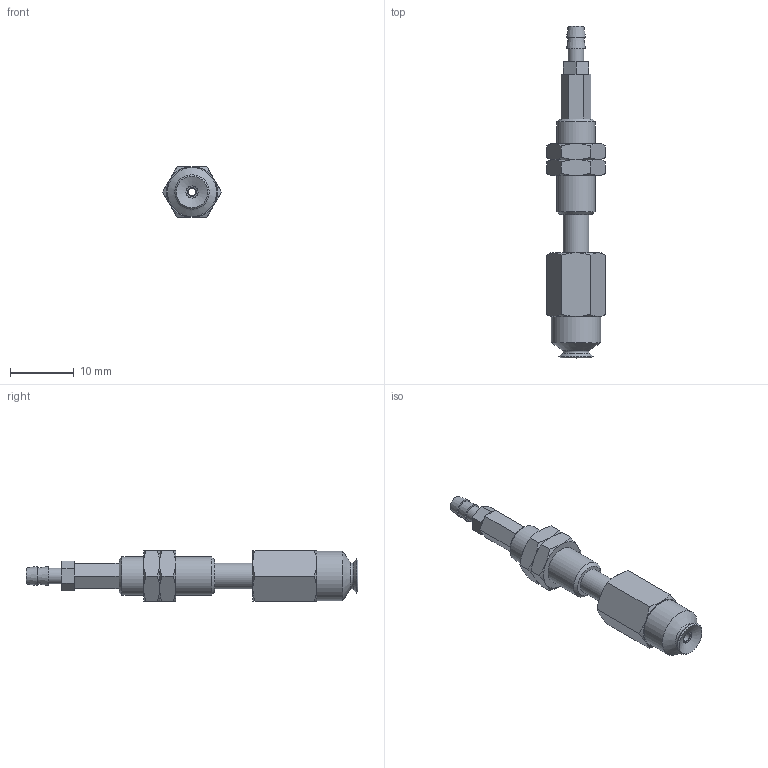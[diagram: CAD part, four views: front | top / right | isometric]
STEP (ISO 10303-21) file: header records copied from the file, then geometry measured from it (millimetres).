
FILE_DESCRIPTION(('STEP AP203'),'1');
FILE_NAME('-T.stp','2025-08-27T05:33:50',(' '),(' '),'Spatial InterOp 3D',' ',' ');
FILE_SCHEMA(('CONFIG_CONTROL_DESIGN'));
Length unit declared in the file: millimetre
Products named in the file (7): BNABPFTS-5A-6-※-T; ADAPTER; NAPCTS-7-6-MBODY; Nut-5A-6-s; NAPFTS-5A-6-FBODY; BPFG-5A-※; T (2)
Assembly tree (7 placements, depth 2):
  BNABPFTS-5A-6-※-T
    ADAPTER
    NAPCTS-7-6-MBODY
    Nut-5A-6-s  x2
    NAPFTS-5A-6-FBODY
    BPFG-5A-※
    T (2)
Bounding box: 9.24 x 52.1 x 8 mm (x, y, z)
Volume: 1549.1 mm3; surface area: 2332.7 mm2
Topology: 7 solids, 7 shells, 134 faces, 278 edges, 166 vertices
Faces by surface type: plane 58, cone 51, cylinder 17, torus 7, bspline 1
Full cylindrical faces by diameter (mm): 1.2 x3, 1.4 x1, 2.459 x1, 2.5 x1, 3 x1, 4 x4, 5.188 x2, 6 x3, 7.7 x1
Entity records: 3223 total; most frequent: CARTESIAN_POINT 728, DIRECTION 456, ORIENTED_EDGE 372, AXIS2_PLACEMENT_3D 201, EDGE_CURVE 186, EDGE_LOOP 167, FACE_OUTER_BOUND 135, VERTEX_POINT 131
